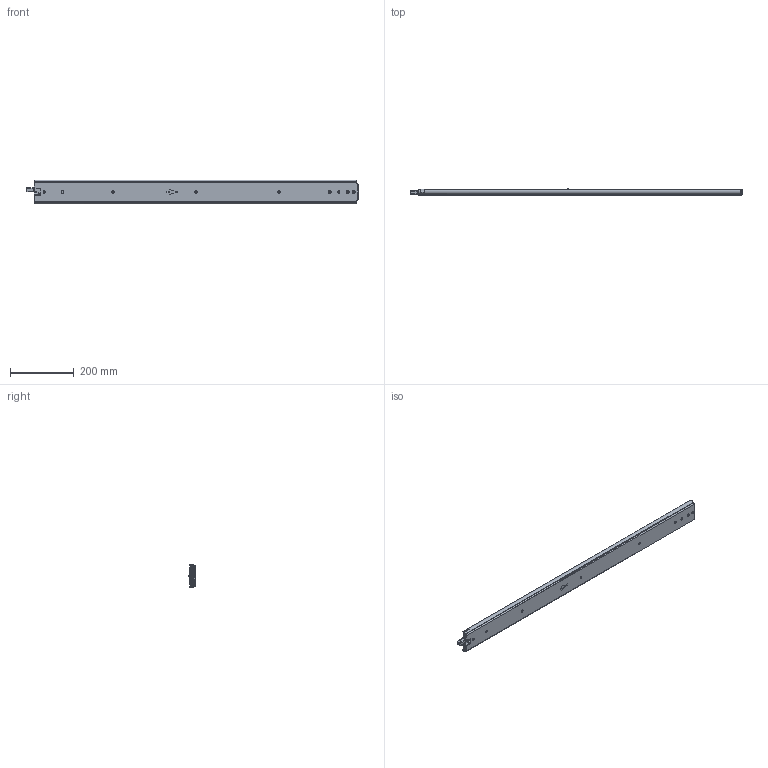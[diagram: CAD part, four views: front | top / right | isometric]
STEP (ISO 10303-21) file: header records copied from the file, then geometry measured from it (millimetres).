
FILE_DESCRIPTION((''),'2;1');
FILE_NAME('DG-76-3S-40YOU_ASM','2023-05-11T',('jishu015'),(''),'PRO/ENGINEER BY PARAMETRIC TECHNOLOGY CORPORATION, 2010280','PRO/ENGINEER BY PARAMETRIC TECHNOLOGY CORPORATION, 2010280','');
FILE_SCHEMA(('CONFIG_CONTROL_DESIGN'));
Products named in the file (29): KP-76-04WAIKE-1816__________; 1076-WAIKEZIDANJIAO16__________; WAIK16___________ASM; 1076XIAOZHUTIAO-22516__________; 16__________; 1076XIAOZHUTIAO-17516___________ASM; KP-76-04ZHONGGUI1816__________; 76CHANGGUIZHONGGUIJIAO1621__; 3X6WODIN16__________; ZHONGGUIBAIKOU16__________; PJ-76-30_________; PJ-76-03_________; 76-XIAOZHUJIA-11_________; GANGZHU-XIAO_________; ZHUJIA-XIAO__________ASM; ZHONGGUI6___________ASM; KP-76-04NEIGUI1816__________; PJ-76-31_________; DAOGPIAN16__________; 1053-3SBANJ01_________; JIAO-11_________; 76XINSUOKOU_________; PJ-338_________; PJ-356_________; PJ-357_________; PJ-336_________; M4X4_________; NEIGUI16___________ASM; DG-76-3S-40YOU_ASM
Assembly tree (83 placements, depth 4):
  DG-76-3S-40YOU_ASM
    WAIK16___________ASM
      KP-76-04WAIKE-1816__________
      1076-WAIKEZIDANJIAO16__________  x2
    1076XIAOZHUTIAO-17516___________ASM  x2
      1076XIAOZHUTIAO-22516__________
      16__________
    ZHONGGUI6___________ASM
      KP-76-04ZHONGGUI1816__________
      76CHANGGUIZHONGGUIJIAO1621__
      3X6WODIN16__________
      ZHONGGUIBAIKOU16__________
      PJ-76-30_________
      PJ-76-03_________
      ZHUJIA-XIAO__________ASM
        76-XIAOZHUJIA-11_________
        GANGZHU-XIAO_________  x38
    NEIGUI16___________ASM
      KP-76-04NEIGUI1816__________
      PJ-76-31_________
      DAOGPIAN16__________
      1053-3SBANJ01_________
      JIAO-11_________
      76XINSUOKOU_________
      PJ-338_________
      PJ-356_________
      PJ-357_________
      PJ-336_________
      M4X4_________
Bounding box: 1041.92 x 20.6 x 75.3 mm (x, y, z)
Volume: 668033.8 mm3; surface area: 644473.9 mm2
Topology: 96 solids, 96 shells, 2394 faces, 7247 edges, 4584 vertices
Faces by surface type: plane 1229, cylinder 887, sphere 151, bspline 60, cone 28, extrusion 23, torus 16
Entity records: 77693 total; most frequent: CARTESIAN_POINT 20817, ORIENTED_EDGE 12454, DIRECTION 11250, EDGE_CURVE 6227, VERTEX_POINT 4056, AXIS2_PLACEMENT_3D 3888, VECTOR 3474, LINE 3451
